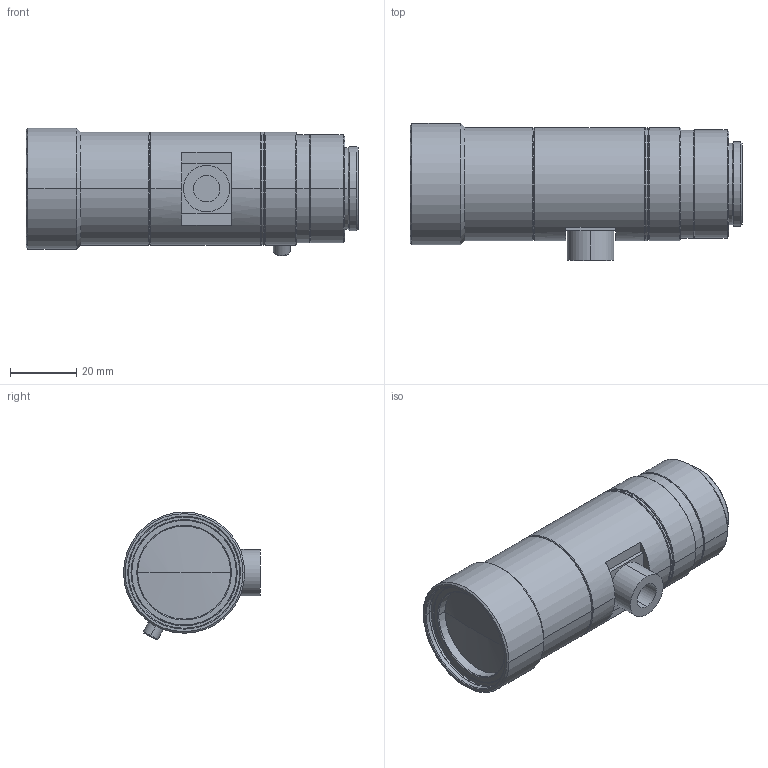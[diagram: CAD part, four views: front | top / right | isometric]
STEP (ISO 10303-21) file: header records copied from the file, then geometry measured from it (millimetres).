
FILE_DESCRIPTION (( 'STEP AP203' ), '1' );
FILE_NAME ('VS-TCT08-65CO.STEP', '2016-08-30T07:15:04', ( '' ), ( '' ), 'SwSTEP 2.0', 'SolidWorks 2016', '' );
FILE_SCHEMA (( 'CONFIG_CONTROL_DESIGN' ));
Length unit declared in the file: millimetre
Products named in the file (1): VS-TCT08-65CO
Bounding box: 99.97 x 41.25 x 38.52 mm (x, y, z)
Volume: 83499 mm3; surface area: 16289.7 mm2
Topology: 3 solids, 3 shells, 145 faces, 291 edges, 170 vertices
Faces by surface type: cone 66, cylinder 46, plane 29, sphere 4
Entity records: 3828 total; most frequent: DIRECTION 745, CARTESIAN_POINT 607, ORIENTED_EDGE 582, AXIS2_PLACEMENT_3D 308, EDGE_CURVE 291, VERTEX_POINT 170, EDGE_LOOP 165, CIRCLE 162
